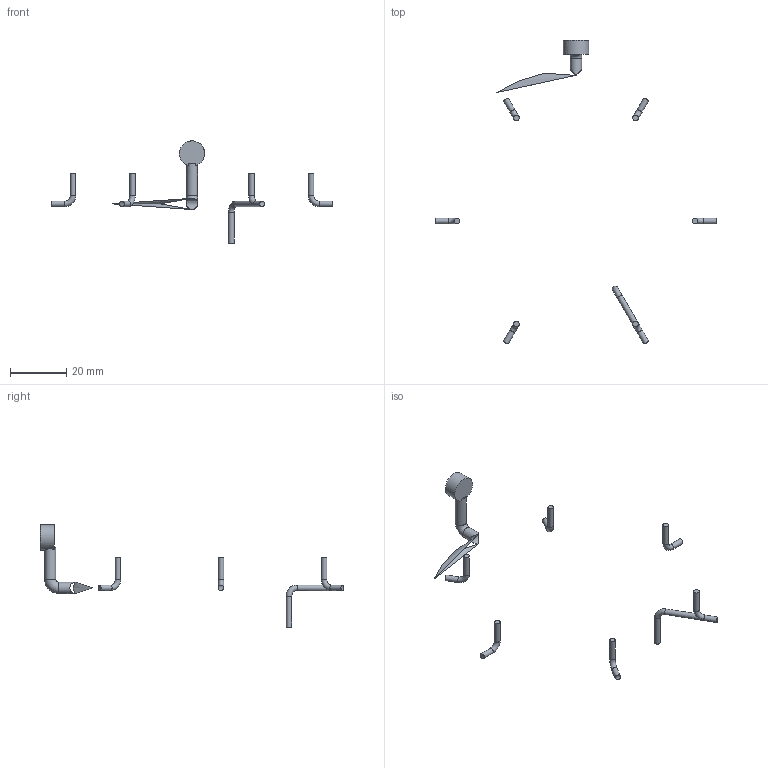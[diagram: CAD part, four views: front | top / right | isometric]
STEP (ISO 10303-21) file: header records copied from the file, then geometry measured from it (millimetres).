
FILE_DESCRIPTION(('Open CASCADE Model'),'2;1');
FILE_NAME('Open CASCADE Shape Model','2026-09-23T03:55:25',('Author'),( 'Open CASCADE'),'Open CASCADE STEP processor 7.9','Open CASCADE 7.9' ,'Unknown');
FILE_SCHEMA(('AUTOMOTIVE_DESIGN { 1 0 10303 214 1 1 1 1 }'));
Length unit declared in the file: millimetre
Products named in the file (1): Open CASCADE STEP translator 7.9 1
Bounding box: 100.54 x 108.29 x 36.5 mm (x, y, z)
Volume: 935.4 mm3; surface area: 1431.7 mm2
Topology: 6 solids, 6 shells, 42 faces, 74 edges, 46 vertices
Faces by surface type: cylinder 18, torus 14, plane 10
Full cylindrical faces by diameter (mm): 2 x13, 4 x2, 4.2 x1, 9 x1
Entity records: 5217 total; most frequent: CARTESIAN_POINT 3667, DIRECTION 285, ORIENTED_EDGE 152, PCURVE 152, DEFINITIONAL_REPRESENTATION 152, LINE 117, VECTOR 117, AXIS2_PLACEMENT_3D 78
